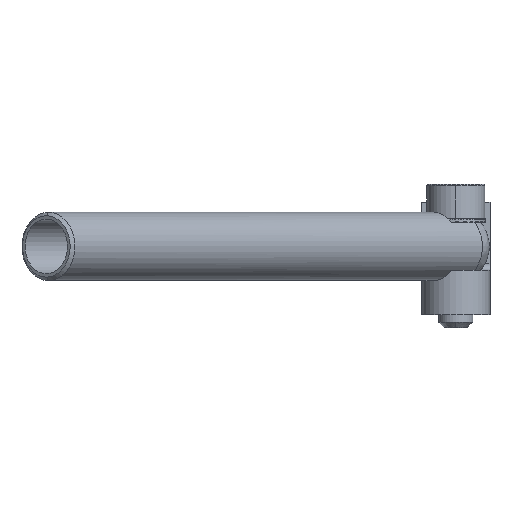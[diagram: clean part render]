
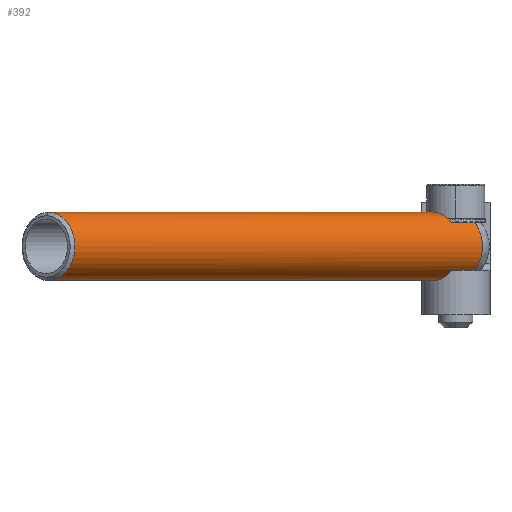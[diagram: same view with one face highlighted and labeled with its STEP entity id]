
A CAD part, front view. The second image highlights one B-rep face of the part: STEP entity #392.
In plain terms, the highlighted cylindrical face has radius 5 mm (diameter 10 mm), a partial arc.
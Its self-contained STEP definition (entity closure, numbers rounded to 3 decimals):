
#33 = CYLINDRICAL_SURFACE ( 'NONE', #1696, 5. ) ;
#69 = CARTESIAN_POINT ( 'NONE',  ( -33.618, -62.872, 1.75 ) ) ;
#285 = VERTEX_POINT ( 'NONE', #1740 ) ;
#392 = ADVANCED_FACE ( 'NONE', ( #2962 ), #33, .T. ) ;
#679 = EDGE_CURVE ( 'NONE', #8665, #7787, #8987, .T. ) ;
#688 = VECTOR ( 'NONE', #6593, 1000. ) ;
#1353 = DIRECTION ( 'NONE',  ( 0.631, 0.776, 0. ) ) ;
#1513 = EDGE_CURVE ( 'NONE', #8094, #12234, #8804, .T. ) ;
#1596 = CARTESIAN_POINT ( 'NONE',  ( 22.692, 6.307, -3.25 ) ) ;
#1696 = AXIS2_PLACEMENT_3D ( 'NONE', #7994, #7374, #4737 ) ;
#1740 = CARTESIAN_POINT ( 'NONE',  ( 25.462, 4.053, -1.75 ) ) ;
#1944 = DIRECTION ( 'NONE',  ( 0.631, 0.776, 0. ) ) ;
#2447 = CIRCLE ( 'NONE', #5773, 5. ) ;
#2595 = EDGE_CURVE ( 'NONE', #12234, #285, #9963, .T. ) ;
#2643 = CARTESIAN_POINT ( 'NONE',  ( 28.807, 8.164, -1.75 ) ) ;
#2700 = VECTOR ( 'NONE', #7503, 1000. ) ;
#2962 = FACE_OUTER_BOUND ( 'NONE', #5813, .T. ) ;
#3256 = EDGE_CURVE ( 'NONE', #5265, #8094, #4918, .T. ) ;
#3308 = CARTESIAN_POINT ( 'NONE',  ( 22.692, 6.307, 1.75 ) ) ;
#3423 = DIRECTION ( 'NONE',  ( 0., 0., 1. ) ) ;
#3456 = DIRECTION ( 'NONE',  ( 0.631, 0.776, 0. ) ) ;
#3692 = DIRECTION ( 'NONE',  ( 0.631, 0.776, 0. ) ) ;
#3812 = CARTESIAN_POINT ( 'NONE',  ( 26.038, 10.418, 1.75 ) ) ;
#4095 = VECTOR ( 'NONE', #3692, 1000. ) ;
#4117 = ORIENTED_EDGE ( 'NONE', *, *, #4790, .T. ) ;
#4253 = VECTOR ( 'NONE', #1353, 1000. ) ;
#4446 = EDGE_CURVE ( 'NONE', #10346, #5905, #5558, .T. ) ;
#4475 = DIRECTION ( 'NONE',  ( 0.631, 0.776, 0. ) ) ;
#4526 = LINE ( 'NONE', #6004, #4253 ) ;
#4641 = CARTESIAN_POINT ( 'NONE',  ( 22.692, 6.307, 6.75 ) ) ;
#4713 = CARTESIAN_POINT ( 'NONE',  ( -33.618, -62.872, -3.25 ) ) ;
#4737 = DIRECTION ( 'NONE',  ( 0., 0., 1. ) ) ;
#4780 = AXIS2_PLACEMENT_3D ( 'NONE', #3812, #1944, #8928 ) ;
#4790 = EDGE_CURVE ( 'NONE', #5905, #7475, #5702, .T. ) ;
#4918 = CIRCLE ( 'NONE', #4780, 5. ) ;
#5051 = AXIS2_PLACEMENT_3D ( 'NONE', #69, #6645, #11000 ) ;
#5251 = DIRECTION ( 'NONE',  ( 0., 0., 1. ) ) ;
#5265 = VERTEX_POINT ( 'NONE', #6091 ) ;
#5283 = LINE ( 'NONE', #5603, #4095 ) ;
#5558 = CIRCLE ( 'NONE', #5051, 5. ) ;
#5603 = CARTESIAN_POINT ( 'NONE',  ( -1.02, -28.481, 5.25 ) ) ;
#5702 = LINE ( 'NONE', #8346, #688 ) ;
#5773 = AXIS2_PLACEMENT_3D ( 'NONE', #10175, #4475, #11142 ) ;
#5813 = EDGE_LOOP ( 'NONE', ( #7567, #4117, #12203, #11285, #10755, #9554, #10911, #11567, #6785 ) ) ;
#5905 = VERTEX_POINT ( 'NONE', #4713 ) ;
#6004 = CARTESIAN_POINT ( 'NONE',  ( -33.618, -62.872, 6.75 ) ) ;
#6091 = CARTESIAN_POINT ( 'NONE',  ( 28.807, 8.164, 5.25 ) ) ;
#6181 = CARTESIAN_POINT ( 'NONE',  ( -1.02, -28.481, -1.75 ) ) ;
#6532 = CARTESIAN_POINT ( 'NONE',  ( -33.618, -62.872, 6.75 ) ) ;
#6593 = DIRECTION ( 'NONE',  ( 0.631, 0.776, 0. ) ) ;
#6645 = DIRECTION ( 'NONE',  ( 0.631, 0.776, 0. ) ) ;
#6785 = ORIENTED_EDGE ( 'NONE', *, *, #10572, .F. ) ;
#7250 = DIRECTION ( 'NONE',  ( 0.631, 0.776, 0. ) ) ;
#7374 = DIRECTION ( 'NONE',  ( 0.631, 0.776, 0. ) ) ;
#7396 = AXIS2_PLACEMENT_3D ( 'NONE', #7430, #7250, #5251 ) ;
#7430 = CARTESIAN_POINT ( 'NONE',  ( 26.038, 10.418, 1.75 ) ) ;
#7475 = VERTEX_POINT ( 'NONE', #1596 ) ;
#7490 = EDGE_CURVE ( 'NONE', #285, #7475, #2447, .T. ) ;
#7503 = DIRECTION ( 'NONE',  ( -0.631, -0.776, 0. ) ) ;
#7540 = AXIS2_PLACEMENT_3D ( 'NONE', #3308, #3456, #3423 ) ;
#7567 = ORIENTED_EDGE ( 'NONE', *, *, #4446, .T. ) ;
#7787 = VERTEX_POINT ( 'NONE', #9597 ) ;
#7994 = CARTESIAN_POINT ( 'NONE',  ( -33.618, -62.872, 1.75 ) ) ;
#8094 = VERTEX_POINT ( 'NONE', #9312 ) ;
#8346 = CARTESIAN_POINT ( 'NONE',  ( -33.618, -62.872, -3.25 ) ) ;
#8665 = VERTEX_POINT ( 'NONE', #4641 ) ;
#8804 = CIRCLE ( 'NONE', #7396, 5. ) ;
#8928 = DIRECTION ( 'NONE',  ( 0., 0., 1. ) ) ;
#8987 = CIRCLE ( 'NONE', #7540, 5. ) ;
#9312 = CARTESIAN_POINT ( 'NONE',  ( 29.916, 7.261, 1.75 ) ) ;
#9554 = ORIENTED_EDGE ( 'NONE', *, *, #3256, .F. ) ;
#9597 = CARTESIAN_POINT ( 'NONE',  ( 25.462, 4.053, 5.25 ) ) ;
#9963 = LINE ( 'NONE', #6181, #2700 ) ;
#10175 = CARTESIAN_POINT ( 'NONE',  ( 22.692, 6.307, 1.75 ) ) ;
#10346 = VERTEX_POINT ( 'NONE', #6532 ) ;
#10572 = EDGE_CURVE ( 'NONE', #10346, #8665, #4526, .T. ) ;
#10752 = EDGE_CURVE ( 'NONE', #7787, #5265, #5283, .T. ) ;
#10755 = ORIENTED_EDGE ( 'NONE', *, *, #1513, .F. ) ;
#10911 = ORIENTED_EDGE ( 'NONE', *, *, #10752, .F. ) ;
#11000 = DIRECTION ( 'NONE',  ( 0., 0., 1. ) ) ;
#11142 = DIRECTION ( 'NONE',  ( 0., 0., 1. ) ) ;
#11285 = ORIENTED_EDGE ( 'NONE', *, *, #2595, .F. ) ;
#11567 = ORIENTED_EDGE ( 'NONE', *, *, #679, .F. ) ;
#12203 = ORIENTED_EDGE ( 'NONE', *, *, #7490, .F. ) ;
#12234 = VERTEX_POINT ( 'NONE', #2643 ) ;
